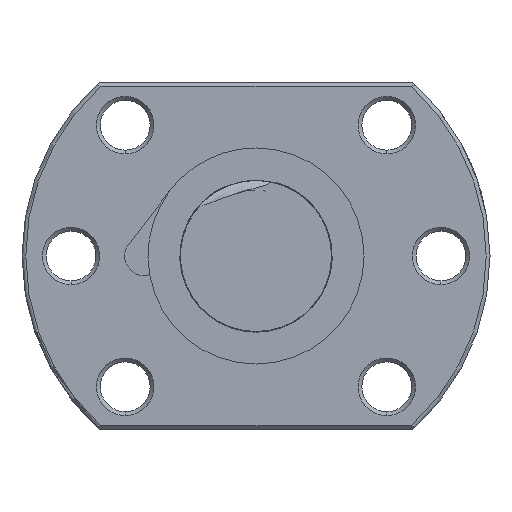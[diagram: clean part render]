
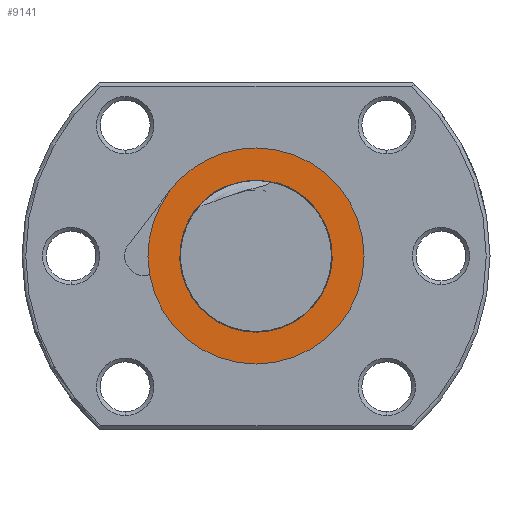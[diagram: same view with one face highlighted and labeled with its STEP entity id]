
A CAD part, left-side view. The second image highlights one B-rep face of the part: STEP entity #9141.
In plain terms, the highlighted planar face has unit normal (-1, 0, 0).
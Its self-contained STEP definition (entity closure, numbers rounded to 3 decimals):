
#642 = CARTESIAN_POINT ( 'NONE',  ( -115.8, -2.664, 9.742 ) ) ;
#643 = DIRECTION ( 'NONE',  ( 0., 0., 1. ) ) ;
#644 = DIRECTION ( 'NONE',  ( -1., 0., 0. ) ) ;
#645 = CARTESIAN_POINT ( 'NONE',  ( -115.8, 0., 0. ) ) ;
#646 = AXIS2_PLACEMENT_3D ( 'NONE', #645, #644, #643 ) ;
#647 = CIRCLE ( 'NONE', #646, 10.1 ) ;
#648 = CARTESIAN_POINT ( 'NONE',  ( -115.8, 0., -10.1 ) ) ;
#1535 = CARTESIAN_POINT ( 'NONE',  ( -115.8, 14.095, -2.486 ) ) ;
#1536 = DIRECTION ( 'NONE',  ( 0., 0., 1. ) ) ;
#1537 = DIRECTION ( 'NONE',  ( -1., 0., 0. ) ) ;
#1538 = AXIS2_PLACEMENT_3D ( 'NONE', #1544, #1537, #1536 ) ;
#1539 = CIRCLE ( 'NONE', #1538, 14.313 ) ;
#1544 = CARTESIAN_POINT ( 'NONE',  ( -115.8, 0., 0. ) ) ;
#1673 = CARTESIAN_POINT ( 'NONE',  ( -115.8, 11.329, 8.746 ) ) ;
#1674 = DIRECTION ( 'NONE',  ( 0., 0., 1. ) ) ;
#1675 = DIRECTION ( 'NONE',  ( -1., 0., 0. ) ) ;
#1676 = AXIS2_PLACEMENT_3D ( 'NONE', #1683, #1675, #1674 ) ;
#1677 = CIRCLE ( 'NONE', #1676, 14.313 ) ;
#1683 = CARTESIAN_POINT ( 'NONE',  ( -115.8, 0., 0. ) ) ;
#1696 = CARTESIAN_POINT ( 'NONE',  ( -115.8, 0., 14.313 ) ) ;
#1697 = CARTESIAN_POINT ( 'NONE',  ( -115.8, 0., -14.313 ) ) ;
#1698 = DIRECTION ( 'NONE',  ( 0., 0., 1. ) ) ;
#1699 = DIRECTION ( 'NONE',  ( -1., 0., 0. ) ) ;
#1700 = CARTESIAN_POINT ( 'NONE',  ( -115.8, 0., 0. ) ) ;
#1701 = AXIS2_PLACEMENT_3D ( 'NONE', #1700, #1699, #1698 ) ;
#1706 = CIRCLE ( 'NONE', #1701, 14.313 ) ;
#8237 = VERTEX_POINT ( 'NONE', #648 ) ;
#8239 = EDGE_CURVE ( 'NONE', #8237, #8240, #647, .T. ) ;
#8240 = VERTEX_POINT ( 'NONE', #642 ) ;
#8588 = EDGE_CURVE ( 'NONE', #8589, #8712, #1539, .T. ) ;
#8589 = VERTEX_POINT ( 'NONE', #1535 ) ;
#8711 = EDGE_CURVE ( 'NONE', #8712, #8713, #1706, .T. ) ;
#8712 = VERTEX_POINT ( 'NONE', #1697 ) ;
#8713 = VERTEX_POINT ( 'NONE', #1696 ) ;
#8753 = EDGE_CURVE ( 'NONE', #8713, #8754, #1677, .T. ) ;
#8754 = VERTEX_POINT ( 'NONE', #1673 ) ;
#9053 = ORIENTED_EDGE ( 'NONE', *, *, #8753, .T. ) ;
#9095 = ORIENTED_EDGE ( 'NONE', *, *, #9140, .F. ) ;
#9096 = ORIENTED_EDGE ( 'NONE', *, *, #9097, .F. ) ;
#9097 = EDGE_CURVE ( 'NONE', #8240, #9138, #20282, .T. ) ;
#9098 = ORIENTED_EDGE ( 'NONE', *, *, #8239, .F. ) ;
#9099 = EDGE_LOOP ( 'NONE', ( #9100, #9102, #9103, #9053 ) ) ;
#9100 = ORIENTED_EDGE ( 'NONE', *, *, #9101, .T. ) ;
#9101 = EDGE_CURVE ( 'NONE', #8754, #8589, #20276, .T. ) ;
#9102 = ORIENTED_EDGE ( 'NONE', *, *, #8588, .T. ) ;
#9103 = ORIENTED_EDGE ( 'NONE', *, *, #8711, .T. ) ;
#9138 = VERTEX_POINT ( 'NONE', #20323 ) ;
#9140 = EDGE_CURVE ( 'NONE', #9138, #8237, #20312, .T. ) ;
#9141 = ADVANCED_FACE ( 'NONE', ( #20295, #20294 ), #20292, .T. ) ;
#9142 = EDGE_LOOP ( 'NONE', ( #9095, #9096, #9098 ) ) ;
#20211 = CARTESIAN_POINT ( 'NONE',  ( -115.8, 7.028, 7.254 ) ) ;
#20212 = CARTESIAN_POINT ( 'NONE',  ( -115.8, 6.932, 7.21 ) ) ;
#20213 = CARTESIAN_POINT ( 'NONE',  ( -115.8, 6.825, 7.192 ) ) ;
#20214 = CARTESIAN_POINT ( 'NONE',  ( -115.8, 6.614, 7.181 ) ) ;
#20215 = CARTESIAN_POINT ( 'NONE',  ( -115.8, 6.509, 7.188 ) ) ;
#20216 = CARTESIAN_POINT ( 'NONE',  ( -115.8, 6.197, 7.225 ) ) ;
#20217 = CARTESIAN_POINT ( 'NONE',  ( -115.8, 5.99, 7.274 ) ) ;
#20218 = CARTESIAN_POINT ( 'NONE',  ( -115.8, 5.38, 7.438 ) ) ;
#20219 = CARTESIAN_POINT ( 'NONE',  ( -115.8, 4.981, 7.574 ) ) ;
#20220 = CARTESIAN_POINT ( 'NONE',  ( -115.8, 4.181, 7.841 ) ) ;
#20221 = CARTESIAN_POINT ( 'NONE',  ( -115.8, 3.78, 7.973 ) ) ;
#20222 = CARTESIAN_POINT ( 'NONE',  ( -115.8, 2.975, 8.22 ) ) ;
#20223 = CARTESIAN_POINT ( 'NONE',  ( -115.8, 2.57, 8.335 ) ) ;
#20224 = CARTESIAN_POINT ( 'NONE',  ( -115.8, 1.755, 8.544 ) ) ;
#20225 = CARTESIAN_POINT ( 'NONE',  ( -115.8, 1.346, 8.638 ) ) ;
#20226 = CARTESIAN_POINT ( 'NONE',  ( -115.8, 0.523, 8.809 ) ) ;
#20265 = CARTESIAN_POINT ( 'NONE',  ( -115.8, 0.109, 8.886 ) ) ;
#20266 = CARTESIAN_POINT ( 'NONE',  ( -115.8, -0.719, 9.038 ) ) ;
#20267 = CARTESIAN_POINT ( 'NONE',  ( -115.8, -1.134, 9.11 ) ) ;
#20268 = CARTESIAN_POINT ( 'NONE',  ( -115.8, -1.745, 9.26 ) ) ;
#20269 = CARTESIAN_POINT ( 'NONE',  ( -115.8, -1.947, 9.316 ) ) ;
#20273 = DIRECTION ( 'NONE',  ( 0., 0., 1. ) ) ;
#20274 = DIRECTION ( 'NONE',  ( -1., 0., 0. ) ) ;
#20275 = AXIS2_PLACEMENT_3D ( 'NONE', #20283, #20274, #20273 ) ;
#20276 = CIRCLE ( 'NONE', #20275, 14.313 ) ;
#20277 = CARTESIAN_POINT ( 'NONE',  ( -115.8, -2.24, 9.434 ) ) ;
#20278 = CARTESIAN_POINT ( 'NONE',  ( -115.8, -2.336, 9.479 ) ) ;
#20279 = CARTESIAN_POINT ( 'NONE',  ( -115.8, -2.516, 9.59 ) ) ;
#20280 = CARTESIAN_POINT ( 'NONE',  ( -115.8, -2.601, 9.658 ) ) ;
#20281 = CARTESIAN_POINT ( 'NONE',  ( -115.8, -2.664, 9.742 ) ) ;
#20282 = B_SPLINE_CURVE_WITH_KNOTS ( 'NONE', 3,
 ( #20281, #20280, #20279, #20278, #20277, #20269, #20268, #20267, #20266, #20265, #20226, #20225, #20224, #20223, #20222, #20221, #20220, #20219, #20218, #20217, #20216, #20215, #20214, #20213, #20212, #20211 ),
 .UNSPECIFIED., .F., .F.,
 ( 4, 2, 2, 2, 2, 2, 2, 2, 2, 2, 2, 2, 4 ),
 ( 0.013, 0.014, 0.014, 0.015, 0.016, 0.017, 0.018, 0.02, 0.021, 0.022, 0.023, 0.023, 0.023 ),
 .UNSPECIFIED. ) ;
#20283 = CARTESIAN_POINT ( 'NONE',  ( -115.8, 0., 0. ) ) ;
#20288 = DIRECTION ( 'NONE',  ( 0., 0., 1. ) ) ;
#20289 = DIRECTION ( 'NONE',  ( -1., 0., 0. ) ) ;
#20290 = CARTESIAN_POINT ( 'NONE',  ( -115.8, 0., 10.1 ) ) ;
#20291 = AXIS2_PLACEMENT_3D ( 'NONE', #20290, #20289, #20288 ) ;
#20292 = PLANE ( 'NONE',  #20291 ) ;
#20294 = FACE_OUTER_BOUND ( 'NONE', #9099, .T. ) ;
#20295 = FACE_BOUND ( 'NONE', #9142, .T. ) ;
#20296 = DIRECTION ( 'NONE',  ( 0., 0., 1. ) ) ;
#20297 = DIRECTION ( 'NONE',  ( -1., 0., 0. ) ) ;
#20298 = AXIS2_PLACEMENT_3D ( 'NONE', #20311, #20297, #20296 ) ;
#20311 = CARTESIAN_POINT ( 'NONE',  ( -115.8, 0., 0. ) ) ;
#20312 = CIRCLE ( 'NONE', #20298, 10.1 ) ;
#20323 = CARTESIAN_POINT ( 'NONE',  ( -115.8, 7.028, 7.254 ) ) ;
